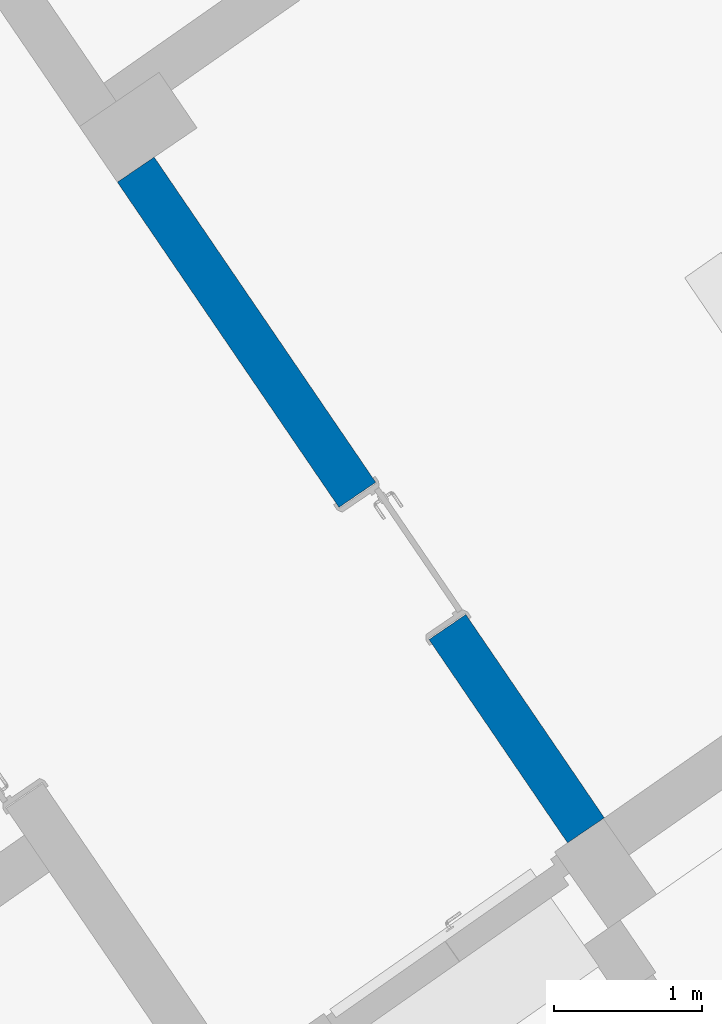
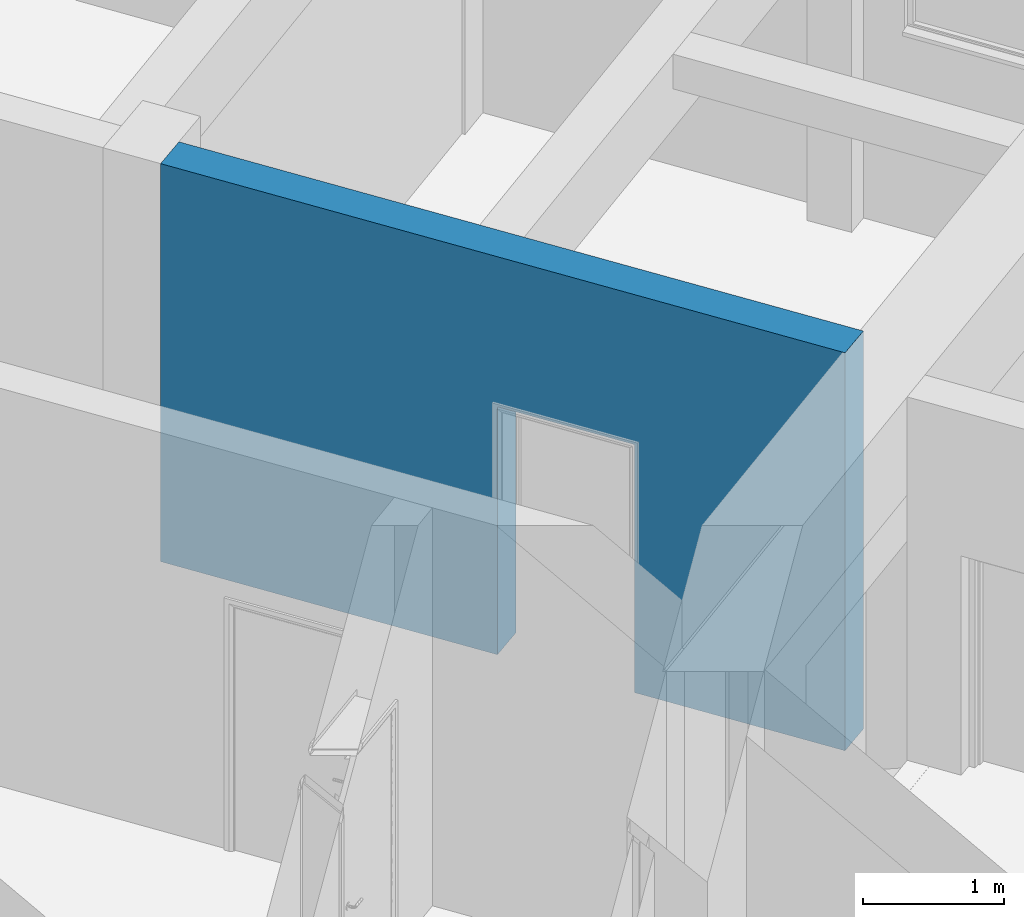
# One storey, part 35 of 112: 1 wall, 1 opening.
"""IFC2X3 building model written with IfcOpenShell, lengths in millimetres."""

from ifc_helpers import new_model, entity, si_unit, converted_unit, derived_unit, direction, frame, frame_2d, origin, place, context, subcontext, project, spatial, rectangle, extrude, material, layer, layer_set, layer_usage, type_object, element, save


model = new_model("IFC2X3")

# Units and contexts
model_context = context("Model", 3, precision=0.01, world=origin(), true_north=direction((6.123031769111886e-17, 1.0)))
body_context = subcontext(model_context, "Body", "Model", "MODEL_VIEW")
ifc_project = project(units=[si_unit("LENGTHUNIT", "METRE", prefix="MILLI"), si_unit("AREAUNIT", "SQUARE_METRE"), si_unit("VOLUMEUNIT", "CUBIC_METRE"), converted_unit("PLANEANGLEUNIT", "DEGREE", entity("IfcRatioMeasure", 0.017453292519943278), si_unit("PLANEANGLEUNIT", "RADIAN"), dimensions=[0, 0, 0, 0, 0, 0, 0]), si_unit("MASSUNIT", "GRAM", prefix="KILO"), derived_unit("MASSDENSITYUNIT", [(si_unit("MASSUNIT", "GRAM", prefix="KILO"), 1), (si_unit("LENGTHUNIT", "METRE"), -3)]), derived_unit("MOMENTOFINERTIAUNIT", [(si_unit("LENGTHUNIT", "METRE"), 4)]), si_unit("TIMEUNIT", "SECOND"), si_unit("FREQUENCYUNIT", "HERTZ"), si_unit("THERMODYNAMICTEMPERATUREUNIT", "DEGREE_CELSIUS"), derived_unit("THERMALTRANSMITTANCEUNIT", [(si_unit("MASSUNIT", "GRAM", prefix="KILO"), 1), (si_unit("THERMODYNAMICTEMPERATUREUNIT", "KELVIN"), -1), (si_unit("TIMEUNIT", "SECOND"), -3)]), derived_unit("THERMALCONDUCTANCEUNIT", [(si_unit("MASSUNIT", "GRAM", prefix="KILO"), 1), (si_unit("LENGTHUNIT", "METRE"), 1), (si_unit("THERMODYNAMICTEMPERATUREUNIT", "KELVIN"), -1), (si_unit("TIMEUNIT", "SECOND"), -3)]), derived_unit("VOLUMETRICFLOWRATEUNIT", [(si_unit("LENGTHUNIT", "METRE"), 3), (si_unit("TIMEUNIT", "SECOND"), -1)]), derived_unit("MASSFLOWRATEUNIT", [(si_unit("MASSUNIT", "GRAM", prefix="KILO"), 1), (si_unit("TIMEUNIT", "SECOND"), -1)]), derived_unit("ROTATIONALFREQUENCYUNIT", [(si_unit("TIMEUNIT", "SECOND"), -1)]), si_unit("ELECTRICCURRENTUNIT", "AMPERE"), si_unit("ELECTRICVOLTAGEUNIT", "VOLT"), si_unit("POWERUNIT", "WATT"), converted_unit("FORCEUNIT", "KIP", entity("IfcRatioMeasure", 2.088543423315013e-05), si_unit("FORCEUNIT", "NEWTON"), dimensions=[1, 1, -2, 0, 0, 0, 0]), si_unit("ILLUMINANCEUNIT", "LUX"), si_unit("LUMINOUSFLUXUNIT", "LUMEN"), si_unit("LUMINOUSINTENSITYUNIT", "CANDELA"), derived_unit("USERDEFINED", [(si_unit("MASSUNIT", "GRAM", prefix="KILO"), -1), (si_unit("LENGTHUNIT", "METRE"), -2), (si_unit("TIMEUNIT", "SECOND"), 3), (si_unit("LUMINOUSFLUXUNIT", "LUMEN"), 1)]), derived_unit("USERDEFINED", [(si_unit("MASSUNIT", "GRAM", prefix="KILO"), 1), (si_unit("LENGTHUNIT", "METRE"), 3), (si_unit("TIMEUNIT", "SECOND"), -3), (si_unit("ELECTRICCURRENTUNIT", "AMPERE"), -2)]), derived_unit("USERDEFINED", [(si_unit("LENGTHUNIT", "METRE"), 2), (si_unit("TIMEUNIT", "SECOND"), -2)]), derived_unit("SOUNDPOWERUNIT", [(si_unit("MASSUNIT", "GRAM", prefix="KILO"), 1), (si_unit("LENGTHUNIT", "METRE"), 2), (si_unit("TIMEUNIT", "SECOND"), -3)]), derived_unit("SOUNDPRESSUREUNIT", [(si_unit("MASSUNIT", "GRAM", prefix="KILO"), 1), (si_unit("LENGTHUNIT", "METRE"), -1), (si_unit("TIMEUNIT", "SECOND"), -2)]), derived_unit("LINEARVELOCITYUNIT", [(si_unit("LENGTHUNIT", "METRE"), 1), (si_unit("TIMEUNIT", "SECOND"), -1)]), si_unit("PRESSUREUNIT", "PASCAL"), derived_unit("USERDEFINED", [(si_unit("LENGTHUNIT", "METRE"), -2), (si_unit("MASSUNIT", "GRAM", prefix="KILO"), 1), (si_unit("TIMEUNIT", "SECOND"), -2)]), derived_unit("LINEARFORCEUNIT", [(si_unit("MASSUNIT", "GRAM", prefix="KILO"), 1), (si_unit("LENGTHUNIT", "METRE"), 1), (si_unit("TIMEUNIT", "SECOND"), -2), (si_unit("LENGTHUNIT", "METRE"), -1)]), derived_unit("PLANARFORCEUNIT", [(si_unit("MASSUNIT", "GRAM", prefix="KILO"), 1), (si_unit("LENGTHUNIT", "METRE"), 1), (si_unit("TIMEUNIT", "SECOND"), -2), (si_unit("LENGTHUNIT", "METRE"), -2)]), derived_unit("SPECIFICHEATCAPACITYUNIT", [(si_unit("LENGTHUNIT", "METRE"), 2), (si_unit("TIMEUNIT", "SECOND"), -2), (si_unit("THERMODYNAMICTEMPERATUREUNIT", "KELVIN"), -1)]), derived_unit("VAPORPERMEABILITYUNIT", [(si_unit("TIMEUNIT", "SECOND"), 1), (si_unit("LENGTHUNIT", "METRE"), -1)]), derived_unit("DYNAMICVISCOSITYUNIT", [(si_unit("MASSUNIT", "GRAM", prefix="KILO"), 1), (si_unit("LENGTHUNIT", "METRE"), -1), (si_unit("TIMEUNIT", "SECOND"), -1)]), derived_unit("THERMALEXPANSIONCOEFFICIENTUNIT", [(si_unit("THERMODYNAMICTEMPERATUREUNIT", "KELVIN"), -1)])], contexts=[model_context])

# Site, building, storey
site_placement = place(None, frame((0.0, 0.0, 0.0), z_axis=(0.0, 0.0, 1.0), x_axis=(0.8191520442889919, 0.5735764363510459, 0.0)))
site = spatial("IfcSite", under=ifc_project, at=site_placement, Name="Default", CompositionType="ELEMENT")
building_placement = place(site_placement, origin())
building = spatial("IfcBuilding", under=site, at=building_placement, CompositionType="ELEMENT")
storey_placement = place(building_placement, frame((0.0, 0.0, -3600.0)))
storey = spatial("IfcBuildingStorey", under=building, at=storey_placement, Name="0.UG -3.60", CompositionType="ELEMENT", Elevation=-3600.0000000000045)

# Wall, opening
ifc_material = material(Name="Analytical Wall Surface_CJC")
ifc_layer = layer(ifc_material, 300.0)
ifc_layer_set = layer_set([ifc_layer], Name="Basic Wall:Wand_Innen_30")
ifc_layer_usage = layer_usage(ifc_layer_set, "AXIS2", "NEGATIVE", 150.0)
wall_type = type_object("IfcWallType", Name="Basic Wall:Wand_Innen_30", PredefinedType="STANDARD", material=ifc_layer_set)
wall_placement = place(storey_placement, frame((-211098.10998300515, 103849.44947620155, 0.0), z_axis=(0.0, 0.0, 1.0), x_axis=(0.012729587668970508, 0.9999189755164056, 0.0)))
wall = element("IfcWallStandardCase", 1, at=wall_placement, inside=storey, type_object=wall_type, material=ifc_layer_usage, Name="Basic Wall:Wand_Innen_30", ObjectType="Basic Wall:Wand_Innen_30", context=body_context, shape_type="SweptSolid", body=[
    extrude(rectangle(XDim=5395.437162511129, YDim=300.00000000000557, at=frame_2d((2697.7185812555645, -5.7696070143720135e-12), x_axis=(-1.0, 0.0))), origin(), (0.0, 0.0, 1.0), 3450.0),
])
opening_placement = place(wall_placement, frame((2740.0, 150.0, 0.0)))
element("IfcOpeningElement", 2, at=opening_placement, cuts=wall, Name="Doors_IntSgl:100x210:1", ObjectType="Opening", context=body_context, shape_type="SweptSolid", body=[
    extrude(rectangle(XDim=2150.000000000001, YDim=1079.9999999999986, at=frame_2d((1075.0000000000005, 539.9999999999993), x_axis=(1.0, 0.0))), frame((0.0, 0.0, 0.0), z_axis=(0.0, -1.0, 0.0), x_axis=(0.0, 0.0, 1.0)), (0.0, 0.0, 1.0), 299.9999999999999),
])

save(model, "model.ifc")
